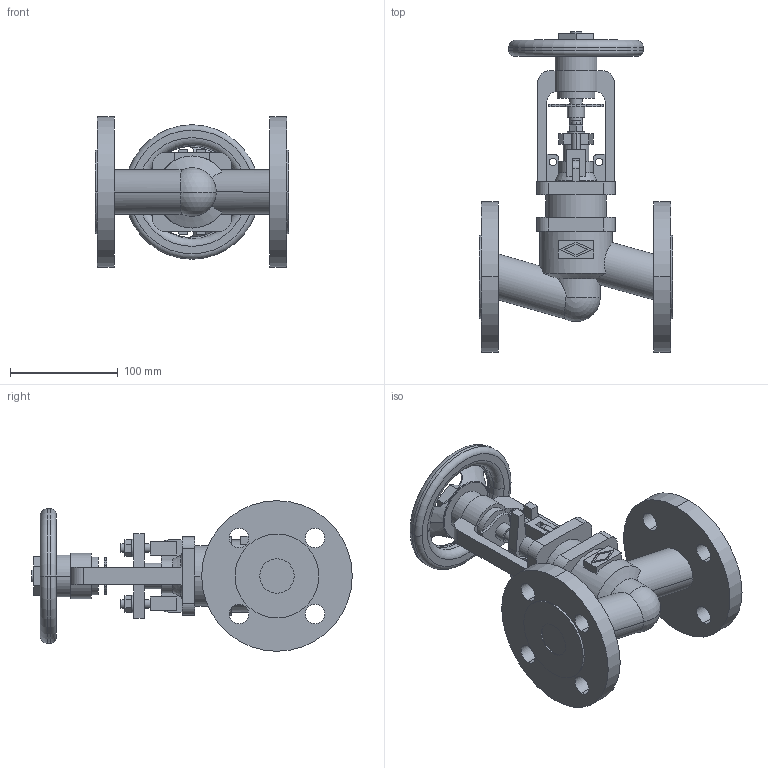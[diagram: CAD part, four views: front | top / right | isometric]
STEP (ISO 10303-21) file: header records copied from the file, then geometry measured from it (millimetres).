
FILE_DESCRIPTION(('OneSpaceDesigner STEP Export'),'2;1');
FILE_NAME('c000003738.stp','2009-06-15T13:03:48',(''),(''),'OneSpace Designer STEP processor for AP214 (Solid Model)','OneSpace Modeling 15.50B 03-Nov-2007 (C) CoCreate Software GmbH','');
FILE_SCHEMA(('AUTOMOTIVE_DESIGN { 1 0 10303 214 1 1 1 1 }'));
Length unit declared in the file: millimetre
Products named in the file (1): 1
Bounding box: 180 x 298 x 140 mm (x, y, z)
Volume: 1247933.1 mm3; surface area: 193828.9 mm2
Topology: 1 solids, 1 shells, 283 faces, 754 edges, 495 vertices
Faces by surface type: plane 140, cylinder 115, torus 14, cone 12, sphere 2
Entity records: 11152 total; most frequent: CARTESIAN_POINT 2142, ORIENTED_EDGE 1504, DIRECTION 1263, EDGE_CURVE 752, VERTEX_POINT 495, AXIS2_PLACEMENT_3D 423, VECTOR 417, LINE 417
